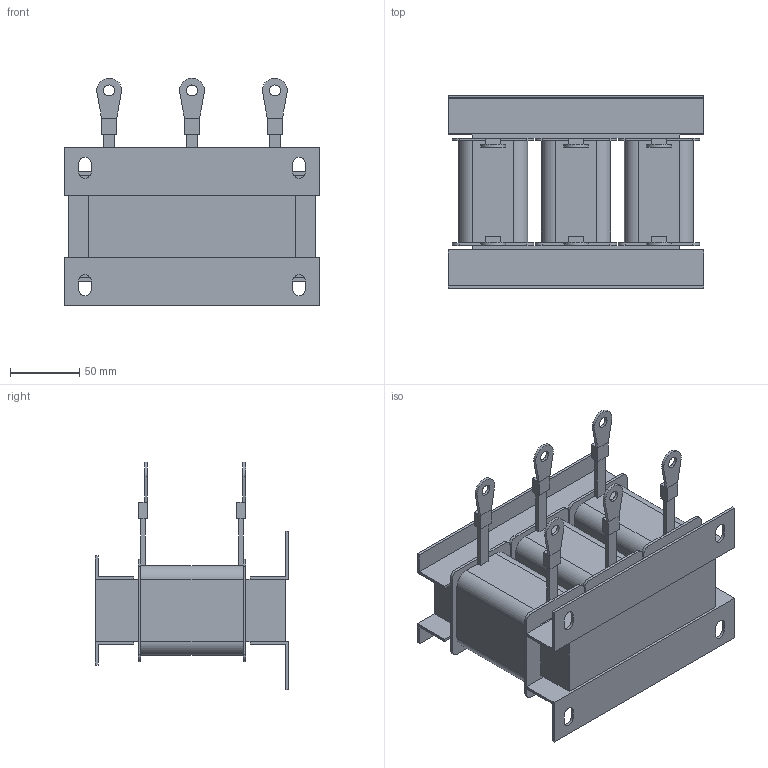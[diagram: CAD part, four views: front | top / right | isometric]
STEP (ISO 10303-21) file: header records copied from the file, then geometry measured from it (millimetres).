
FILE_DESCRIPTION(/* description */ (''),/* implementation_level */ '2;1');
FILE_NAME(/* name */ 'ACO-C-0028-T6.stp',/* time_stamp */ '2025-01-15T07:38:57+04:00',/* author */ ('Александр (огранич)'),/* organization */ (''),/* preprocessor_version */ 'ST-DEVELOPER v19.2',/* originating_system */ 'Autodesk Inventor 2024',/* authorisation */ '');
FILE_SCHEMA (('AUTOMOTIVE_DESIGN { 1 0 10303 214 3 1 1 }'));
Length unit declared in the file: millimetre
Products named in the file (1): ACO-0015-T4-4
Bounding box: 185 x 140 x 164.97 mm (x, y, z)
Volume: 1250078.2 mm3; surface area: 185632.2 mm2
Topology: 21 solids, 21 shells, 262 faces, 634 edges, 416 vertices
Faces by surface type: plane 206, cylinder 56
Full cylindrical faces by diameter (mm): 8 x6
Entity records: 7641 total; most frequent: CARTESIAN_POINT 1313, DIRECTION 1272, ORIENTED_EDGE 1268, EDGE_CURVE 634, LINE 522, VECTOR 522, VERTEX_POINT 416, AXIS2_PLACEMENT_3D 375
